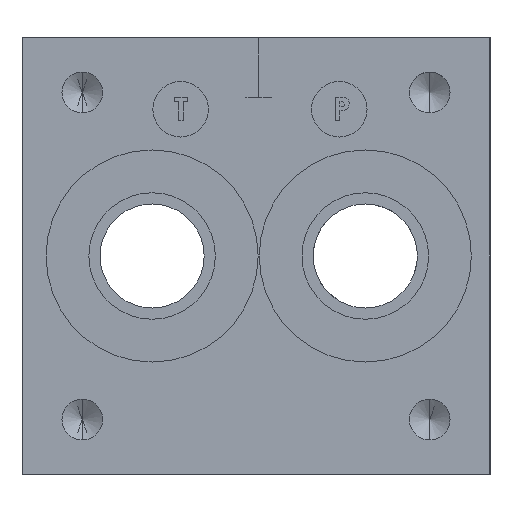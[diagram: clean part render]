
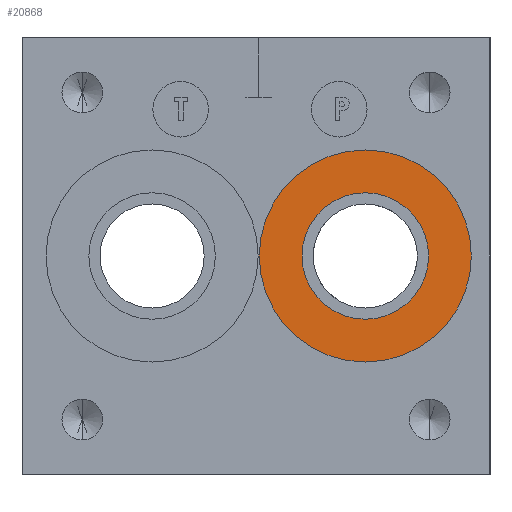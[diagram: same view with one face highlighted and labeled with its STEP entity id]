
A CAD part, left-side view. The second image highlights one B-rep face of the part: STEP entity #20868.
In plain terms, the highlighted planar face has unit normal (-1, 0, 0).
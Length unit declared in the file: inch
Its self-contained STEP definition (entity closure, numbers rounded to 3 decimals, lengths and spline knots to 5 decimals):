
#669 = ORIENTED_EDGE ( 'NONE', *, *, #40396, .F. ) ;
#2446 = CARTESIAN_POINT ( 'NONE',  ( 0.031, 0.786, 1.375 ) ) ;
#2731 = ORIENTED_EDGE ( 'NONE', *, *, #39340, .T. ) ;
#3609 = DIRECTION ( 'NONE',  ( 0., 0., -1. ) ) ;
#3754 = CIRCLE ( 'NONE', #7280, 0.6684 ) ;
#3856 = DIRECTION ( 'NONE',  ( -1., 0., 0. ) ) ;
#4204 = CARTESIAN_POINT ( 'NONE',  ( 0.031, 0.786, 0.97615 ) ) ;
#4615 = CARTESIAN_POINT ( 'NONE',  ( 0.031, 0.786, 2.0434 ) ) ;
#5413 = VERTEX_POINT ( 'NONE', #4204 ) ;
#5650 = DIRECTION ( 'NONE',  ( 0., 0., 1. ) ) ;
#6507 = FACE_OUTER_BOUND ( 'NONE', #14388, .T. ) ;
#7280 = AXIS2_PLACEMENT_3D ( 'NONE', #22736, #3856, #25845 ) ;
#7447 = EDGE_LOOP ( 'NONE', ( #34132, #669 ) ) ;
#8791 = DIRECTION ( 'NONE',  ( -1., 0., 0. ) ) ;
#8841 = EDGE_CURVE ( 'NONE', #21797, #36805, #16626, .T. ) ;
#14388 = EDGE_LOOP ( 'NONE', ( #18093, #2731 ) ) ;
#15515 = AXIS2_PLACEMENT_3D ( 'NONE', #34383, #15780, #37480 ) ;
#15780 = DIRECTION ( 'NONE',  ( -1., 0., 0. ) ) ;
#16626 = CIRCLE ( 'NONE', #33779, 0.6684 ) ;
#16824 = EDGE_CURVE ( 'NONE', #31028, #5413, #40454, .T. ) ;
#16896 = FACE_BOUND ( 'NONE', #7447, .T. ) ;
#18093 = ORIENTED_EDGE ( 'NONE', *, *, #8841, .T. ) ;
#19369 = PLANE ( 'NONE',  #38958 ) ;
#19531 = CARTESIAN_POINT ( 'NONE',  ( 0.031, 0.786, 0.7066 ) ) ;
#20868 = ADVANCED_FACE ( 'NONE', ( #16896, #6507 ), #19369, .F. ) ;
#21797 = VERTEX_POINT ( 'NONE', #4615 ) ;
#22496 = DIRECTION ( 'NONE',  ( 1., 0., 0. ) ) ;
#22736 = CARTESIAN_POINT ( 'NONE',  ( 0.031, 0.786, 1.375 ) ) ;
#24332 = CARTESIAN_POINT ( 'NONE',  ( 0.031, 0.786, 1.77385 ) ) ;
#24467 = DIRECTION ( 'NONE',  ( -1., 0., 0. ) ) ;
#25845 = DIRECTION ( 'NONE',  ( 0., 0., 1. ) ) ;
#26301 = CIRCLE ( 'NONE', #15515, 0.39885 ) ;
#27545 = CARTESIAN_POINT ( 'NONE',  ( 0.031, 0.786, 1.375 ) ) ;
#30719 = DIRECTION ( 'NONE',  ( 0., 0., 1. ) ) ;
#31028 = VERTEX_POINT ( 'NONE', #24332 ) ;
#32976 = AXIS2_PLACEMENT_3D ( 'NONE', #2446, #24467, #5650 ) ;
#33779 = AXIS2_PLACEMENT_3D ( 'NONE', #27545, #8791, #30719 ) ;
#34132 = ORIENTED_EDGE ( 'NONE', *, *, #16824, .F. ) ;
#34383 = CARTESIAN_POINT ( 'NONE',  ( 0.031, 0.786, 1.375 ) ) ;
#34817 = CARTESIAN_POINT ( 'NONE',  ( 0.031, 0.786, 1.375 ) ) ;
#36805 = VERTEX_POINT ( 'NONE', #19531 ) ;
#37480 = DIRECTION ( 'NONE',  ( 0., 0., 1. ) ) ;
#38958 = AXIS2_PLACEMENT_3D ( 'NONE', #34817, #22496, #3609 ) ;
#39340 = EDGE_CURVE ( 'NONE', #36805, #21797, #3754, .T. ) ;
#40396 = EDGE_CURVE ( 'NONE', #5413, #31028, #26301, .T. ) ;
#40454 = CIRCLE ( 'NONE', #32976, 0.39885 ) ;
